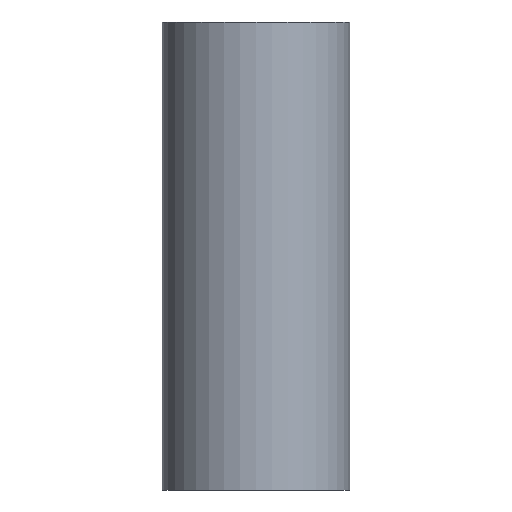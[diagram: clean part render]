
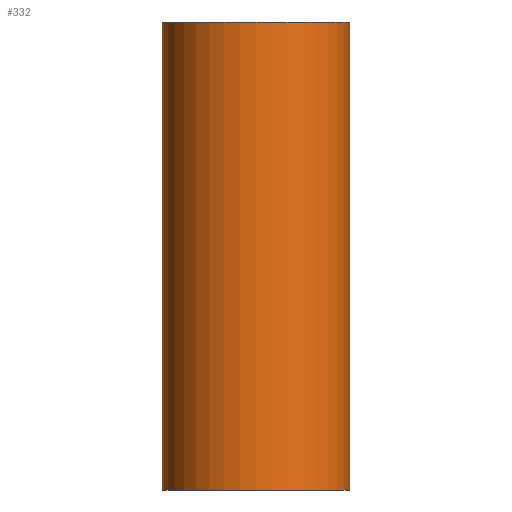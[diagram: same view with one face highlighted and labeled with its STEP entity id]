
A CAD part, front view. The second image highlights one B-rep face of the part: STEP entity #332.
In plain terms, the highlighted cylindrical face has radius 44.45 mm (diameter 88.9 mm), a partial arc.
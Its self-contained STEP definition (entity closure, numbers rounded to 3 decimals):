
#6 = ORIENTED_EDGE ( 'NONE', *, *, #346, .T. ) ;
#17 = LINE ( 'NONE', #240, #378 ) ;
#26 = DIRECTION ( 'NONE',  ( 0., 0., 1. ) ) ;
#30 = CARTESIAN_POINT ( 'NONE',  ( 0., 0., 0. ) ) ;
#41 = VERTEX_POINT ( 'NONE', #425 ) ;
#71 = EDGE_CURVE ( 'NONE', #429, #408, #17, .T. ) ;
#73 = AXIS2_PLACEMENT_3D ( 'NONE', #344, #227, #229 ) ;
#93 = CARTESIAN_POINT ( 'NONE',  ( 44.45, 0., 0. ) ) ;
#114 = DIRECTION ( 'NONE',  ( 0., 0., 1. ) ) ;
#134 = DIRECTION ( 'NONE',  ( 0., 0., 1. ) ) ;
#142 = ORIENTED_EDGE ( 'NONE', *, *, #71, .T. ) ;
#159 = DIRECTION ( 'NONE',  ( 1., 0., 0. ) ) ;
#161 = CARTESIAN_POINT ( 'NONE',  ( -44.45, 0., 0. ) ) ;
#170 = EDGE_CURVE ( 'NONE', #292, #41, #275, .T. ) ;
#184 = CARTESIAN_POINT ( 'NONE',  ( 44.45, 0., -222.25 ) ) ;
#203 = AXIS2_PLACEMENT_3D ( 'NONE', #341, #26, #159 ) ;
#205 = CYLINDRICAL_SURFACE ( 'NONE', #228, 44.45 ) ;
#227 = DIRECTION ( 'NONE',  ( 0., 0., 1. ) ) ;
#228 = AXIS2_PLACEMENT_3D ( 'NONE', #30, #134, #445 ) ;
#229 = DIRECTION ( 'NONE',  ( 1., 0., 0. ) ) ;
#233 = ORIENTED_EDGE ( 'NONE', *, *, #268, .F. ) ;
#240 = CARTESIAN_POINT ( 'NONE',  ( 44.45, 0., 0. ) ) ;
#256 = EDGE_LOOP ( 'NONE', ( #342, #6, #142, #233 ) ) ;
#262 = FACE_OUTER_BOUND ( 'NONE', #256, .T. ) ;
#266 = CIRCLE ( 'NONE', #73, 44.45 ) ;
#268 = EDGE_CURVE ( 'NONE', #41, #408, #403, .T. ) ;
#275 = LINE ( 'NONE', #161, #285 ) ;
#285 = VECTOR ( 'NONE', #293, 1000. ) ;
#292 = VERTEX_POINT ( 'NONE', #337 ) ;
#293 = DIRECTION ( 'NONE',  ( 0., 0., 1. ) ) ;
#332 = ADVANCED_FACE ( 'NONE', ( #262 ), #205, .T. ) ;
#337 = CARTESIAN_POINT ( 'NONE',  ( -44.45, 0., -222.25 ) ) ;
#341 = CARTESIAN_POINT ( 'NONE',  ( 0., 0., 0. ) ) ;
#342 = ORIENTED_EDGE ( 'NONE', *, *, #170, .F. ) ;
#344 = CARTESIAN_POINT ( 'NONE',  ( 0., 0., -222.25 ) ) ;
#346 = EDGE_CURVE ( 'NONE', #292, #429, #266, .T. ) ;
#378 = VECTOR ( 'NONE', #114, 1000. ) ;
#403 = CIRCLE ( 'NONE', #203, 44.45 ) ;
#408 = VERTEX_POINT ( 'NONE', #93 ) ;
#425 = CARTESIAN_POINT ( 'NONE',  ( -44.45, 0., 0. ) ) ;
#429 = VERTEX_POINT ( 'NONE', #184 ) ;
#445 = DIRECTION ( 'NONE',  ( 1., 0., 0. ) ) ;
